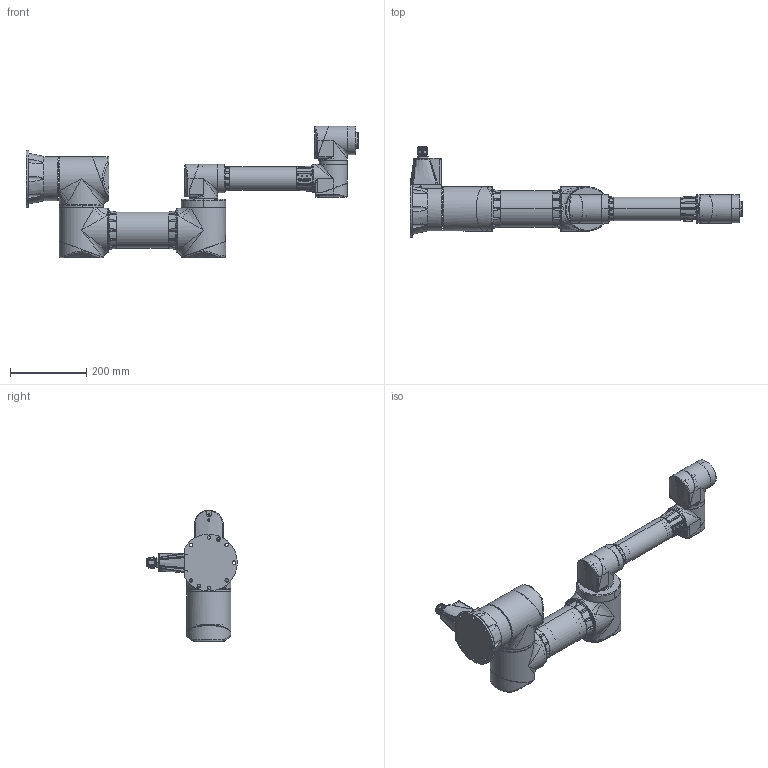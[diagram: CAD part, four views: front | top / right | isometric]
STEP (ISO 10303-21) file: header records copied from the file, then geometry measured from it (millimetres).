
FILE_DESCRIPTION((''),'2;1');
FILE_NAME('ZRA_0507N_ASM','2022-10-12T16:17:27',('SonJeongWon'),(''),'CREO PARAMETRIC BY PTC INC, 2020354','CREO PARAMETRIC BY PTC INC, 2020354','');
FILE_SCHEMA(('CONFIG_CONTROL_DESIGN'));
Products named in the file (25): FLANGE_B; HOLDER_M; COVER_M; MODULE_M_ASM; RING_M; ARM1_PIPE; FLANGE_ARM1; ARM1_ASM; FLANGE_J3; HOLDER_S; COVER_S; MODULE_S_ASM; PIPE2; FLANGE_J4; FLANGE_J5; PLATE; PORT; ARM2_ASM; FLANGE_E; RING_S; COVER_J; CABLE; PLATE_J; COVER_J_ASM; ZRA_0507N_ASM
Assembly tree (29 placements, depth 3):
  ZRA_0507N_ASM
    FLANGE_B
    MODULE_M_ASM  x3
      HOLDER_M
      COVER_M
    RING_M
    ARM1_ASM
      ARM1_PIPE
      FLANGE_ARM1  x2
    FLANGE_J3
    MODULE_S_ASM  x3
      HOLDER_S
      COVER_S
    ARM2_ASM
      PIPE2
      FLANGE_J4
      FLANGE_J5
      PLATE
      PORT
    FLANGE_E
    RING_S
    COVER_J_ASM
      COVER_J
      CABLE
      PLATE_J
Bounding box: 870.1 x 237.3 x 344.89 mm (x, y, z)
Volume: 11355474.7 mm3; surface area: 893364.1 mm2
Topology: 28 solids, 212 shells, 3861 faces, 10478 edges, 6914 vertices
Faces by surface type: cylinder 1409, plane 1297, bspline 650, torus 269, cone 210, sphere 18, extrusion 8
Entity records: 146255 total; most frequent: CARTESIAN_POINT 72340, ORIENTED_EDGE 16264, DIRECTION 13894, EDGE_CURVE 8266, VERTEX_POINT 5414, AXIS2_PLACEMENT_3D 5218, VECTOR 3458, LINE 3450
